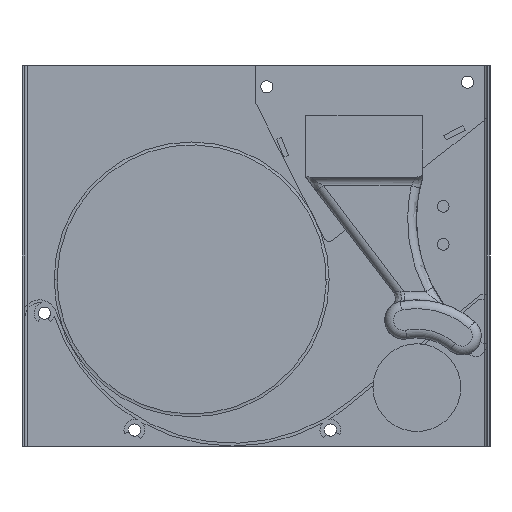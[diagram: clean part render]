
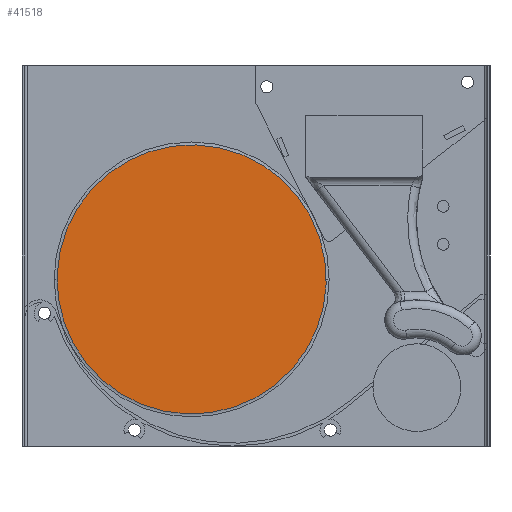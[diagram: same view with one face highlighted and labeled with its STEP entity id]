
A CAD part, left-side view. The second image highlights one B-rep face of the part: STEP entity #41518.
In plain terms, the highlighted planar face has unit normal (-1, 0, 0) as drawn and (0, 0, -1) by its records, which use the part's own axes.
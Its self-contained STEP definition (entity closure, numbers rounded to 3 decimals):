
#41143=CARTESIAN_POINT('Axis2P3D Location',(0.,0.,0.)) ;
#41147=CARTESIAN_POINT('Vertex',(22.054,40.369,0.)) ;
#41149=CARTESIAN_POINT('Vertex',(-22.054,-40.369,0.)) ;
#41178=CARTESIAN_POINT('Axis2P3D Location',(0.,0.,0.)) ;
#41509=CARTESIAN_POINT('Axis2P3D Location',(0.,46.,0.)) ;
#41144=DIRECTION('Axis2P3D Direction',(0.,0.,-1.)) ;
#41179=DIRECTION('Axis2P3D Direction',(0.,0.,-1.)) ;
#41510=DIRECTION('Axis2P3D Direction',(0.,0.,-1.)) ;
#41511=DIRECTION('Axis2P3D XDirection',(1.,0.,0.)) ;
#41145=AXIS2_PLACEMENT_3D('Circle Axis2P3D',#41143,#41144,$) ;
#41180=AXIS2_PLACEMENT_3D('Circle Axis2P3D',#41178,#41179,$) ;
#41512=AXIS2_PLACEMENT_3D('Plane Axis2P3D',#41509,#41510,#41511) ;
#41515=ORIENTED_EDGE('',*,*,#41151,.T.) ;
#41516=ORIENTED_EDGE('',*,*,#41182,.T.) ;
#41518=ADVANCED_FACE('PartBody',(#41517),#41513,.T.) ;
#41146=CIRCLE('generated circle',#41145,46.) ;
#41181=CIRCLE('generated circle',#41180,46.) ;
#41151=EDGE_CURVE('',#41148,#41150,#41146,.T.) ;
#41182=EDGE_CURVE('',#41150,#41148,#41181,.T.) ;
#41514=EDGE_LOOP('',(#41515,#41516)) ;
#41517=FACE_OUTER_BOUND('',#41514,.T.) ;
#41513=PLANE('',#41512) ;
#41148=VERTEX_POINT('',#41147) ;
#41150=VERTEX_POINT('',#41149) ;
